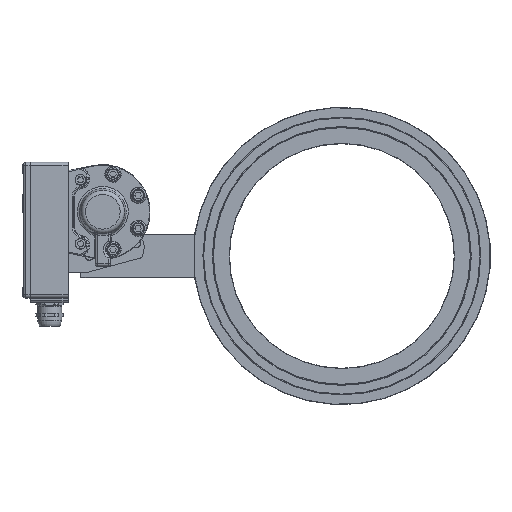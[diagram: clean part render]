
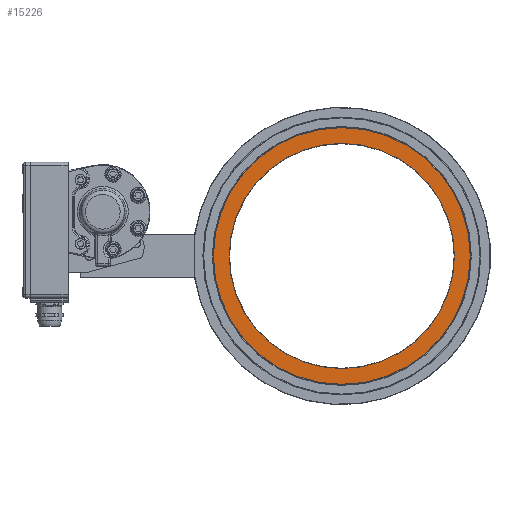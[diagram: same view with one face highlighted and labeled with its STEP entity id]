
A CAD part, top view. The second image highlights one B-rep face of the part: STEP entity #15226.
In plain terms, the highlighted planar face has unit normal (0, 0, 1).
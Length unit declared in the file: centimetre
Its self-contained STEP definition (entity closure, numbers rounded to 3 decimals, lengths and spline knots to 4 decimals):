
#4378=PLANE('',#16398);
#5172=VERTEX_POINT('',#30209);
#5173=VERTEX_POINT('',#30211);
#6378=CIRCLE('',#16430,11.825);
#6379=CIRCLE('',#16431,10.375);
#7317=EDGE_CURVE('',#5172,#5172,#6378,.T.);
#7318=EDGE_CURVE('',#5173,#5173,#6379,.T.);
#10076=ORIENTED_EDGE('',*,*,#7318,.F.);
#10077=ORIENTED_EDGE('',*,*,#7317,.F.);
#13055=EDGE_LOOP('',(#10076));
#13056=EDGE_LOOP('',(#10077));
#14214=FACE_BOUND('',#13055,.T.);
#14215=FACE_BOUND('',#13056,.T.);
#15226=ADVANCED_FACE('',(#14214,#14215),#4378,.F.);
#16398=AXIS2_PLACEMENT_3D('',#30151,#18424,$);
#16430=AXIS2_PLACEMENT_3D('',#30208,#18489,#18490);
#16431=AXIS2_PLACEMENT_3D('',#30210,#18491,#18492);
#18424=DIRECTION('',(0.,0.,-1.));
#18489=DIRECTION('',(0.,0.,-1.));
#18490=DIRECTION('',(-11.825,0.,0.));
#18491=DIRECTION('',(0.,0.,1.));
#18492=DIRECTION('',(10.375,0.,0.));
#30151=CARTESIAN_POINT('',(20.9214,-2.8808,-5.7025));
#30208=CARTESIAN_POINT('',(20.9214,-2.8808,-5.7025));
#30209=CARTESIAN_POINT('',(32.7464,-2.8808,-5.7025));
#30210=CARTESIAN_POINT('',(20.9214,-2.8808,-5.7025));
#30211=CARTESIAN_POINT('',(10.5464,-2.8808,-5.7025));
